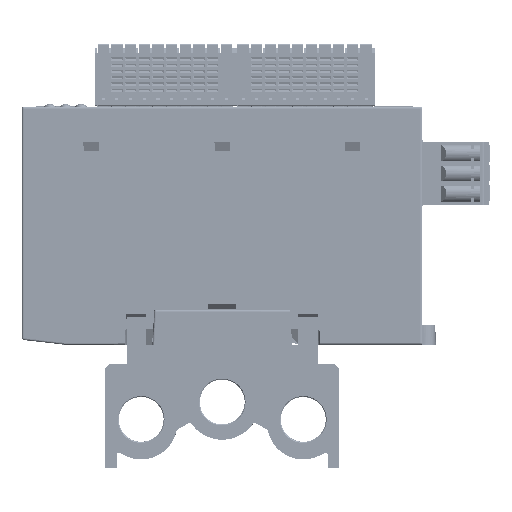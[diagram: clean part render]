
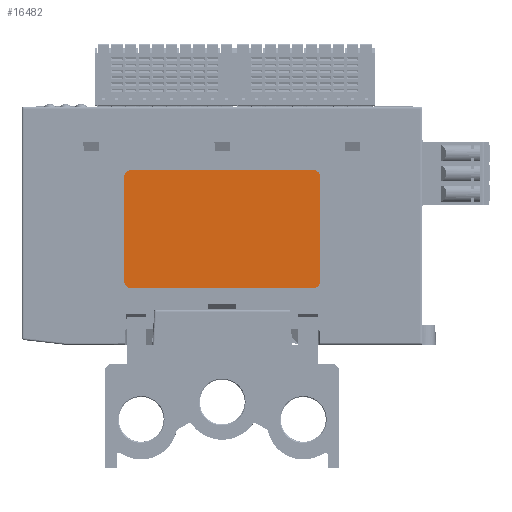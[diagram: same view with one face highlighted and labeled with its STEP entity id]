
A CAD part, front view. The second image highlights one B-rep face of the part: STEP entity #16482.
In plain terms, the highlighted planar face has unit normal (0, -1, 0).
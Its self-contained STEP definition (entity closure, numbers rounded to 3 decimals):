
#7105=FACE_OUTER_BOUND('',#71047,.T.);
#16482=ADVANCED_FACE('',(#7105),#26018,.F.);
#26018=PLANE('',#180159);
#33685=LINE('',#252170,#51706);
#33689=LINE('',#252178,#51710);
#33691=LINE('',#252182,#51712);
#33694=LINE('',#252190,#51715);
#51706=VECTOR('',#198099,1.);
#51710=VECTOR('',#198105,1.);
#51712=VECTOR('',#198109,1.);
#51715=VECTOR('',#198116,1.);
#71047=EDGE_LOOP('',(#84738,#84739,#84740,#84741,#84742,#84743,#84744,#84745));
#84738=ORIENTED_EDGE('',*,*,#151196,.F.);
#84739=ORIENTED_EDGE('',*,*,#151201,.T.);
#84740=ORIENTED_EDGE('',*,*,#151202,.F.);
#84741=ORIENTED_EDGE('',*,*,#151203,.T.);
#84742=ORIENTED_EDGE('',*,*,#151198,.F.);
#84743=ORIENTED_EDGE('',*,*,#151204,.T.);
#84744=ORIENTED_EDGE('',*,*,#151192,.F.);
#84745=ORIENTED_EDGE('',*,*,#151205,.T.);
#134010=VERTEX_POINT('',#252171);
#134011=VERTEX_POINT('',#252172);
#134012=VERTEX_POINT('',#252177);
#134013=VERTEX_POINT('',#252179);
#134014=VERTEX_POINT('',#252183);
#134015=VERTEX_POINT('',#252184);
#134016=VERTEX_POINT('',#252189);
#134017=VERTEX_POINT('',#252191);
#151192=EDGE_CURVE('',#134010,#134011,#33685,.T.);
#151196=EDGE_CURVE('',#134012,#134013,#33689,.T.);
#151198=EDGE_CURVE('',#134014,#134015,#33691,.T.);
#151201=EDGE_CURVE('',#134012,#134016,#174656,.T.);
#151202=EDGE_CURVE('',#134017,#134016,#33694,.T.);
#151203=EDGE_CURVE('',#134017,#134015,#174657,.T.);
#151204=EDGE_CURVE('',#134014,#134011,#174658,.T.);
#151205=EDGE_CURVE('',#134010,#134013,#174659,.T.);
#174656=CIRCLE('',#180155,1.8);
#174657=CIRCLE('',#180156,1.8);
#174658=CIRCLE('',#180157,1.8);
#174659=CIRCLE('',#180158,1.8);
#180155=AXIS2_PLACEMENT_3D('',#252188,#198114,#198115);
#180156=AXIS2_PLACEMENT_3D('',#252192,#198117,#198118);
#180157=AXIS2_PLACEMENT_3D('',#252193,#198119,#198120);
#180158=AXIS2_PLACEMENT_3D('',#252194,#198121,#198122);
#180159=AXIS2_PLACEMENT_3D('',#252195,#198123,#198124);
#198099=DIRECTION('',(0.,0.,-1.));
#198105=DIRECTION('',(1.,0.,0.));
#198109=DIRECTION('',(-1.,0.,0.));
#198114=DIRECTION('',(0.,-1.,0.));
#198115=DIRECTION('',(0.,0.,1.));
#198116=DIRECTION('',(0.,0.,1.));
#198117=DIRECTION('',(0.,-1.,0.));
#198118=DIRECTION('',(0.,0.,-1.));
#198119=DIRECTION('',(0.,-1.,0.));
#198120=DIRECTION('',(0.,0.,-1.));
#198121=DIRECTION('',(0.,-1.,0.));
#198122=DIRECTION('',(0.,0.,-1.));
#198123=DIRECTION('',(0.,1.,0.));
#198124=DIRECTION('',(0.,0.,-1.));
#252170=CARTESIAN_POINT('',(525.15,997.36,34.634));
#252171=CARTESIAN_POINT('',(525.15,997.36,47.934));
#252172=CARTESIAN_POINT('',(525.15,997.36,21.334));
#252177=CARTESIAN_POINT('',(476.75,997.36,49.734));
#252178=CARTESIAN_POINT('',(500.05,997.36,49.734));
#252179=CARTESIAN_POINT('',(523.35,997.36,49.734));
#252182=CARTESIAN_POINT('',(475.05,997.36,19.534));
#252183=CARTESIAN_POINT('',(523.35,997.36,19.534));
#252184=CARTESIAN_POINT('',(476.75,997.36,19.534));
#252188=CARTESIAN_POINT('',(476.75,997.36,47.934));
#252189=CARTESIAN_POINT('',(474.95,997.36,47.934));
#252190=CARTESIAN_POINT('',(474.95,997.36,34.634));
#252191=CARTESIAN_POINT('',(474.95,997.36,21.334));
#252192=CARTESIAN_POINT('',(476.75,997.36,21.334));
#252193=CARTESIAN_POINT('',(523.35,997.36,21.334));
#252194=CARTESIAN_POINT('',(523.35,997.36,47.934));
#252195=CARTESIAN_POINT('',(500.041,997.36,23.341));
